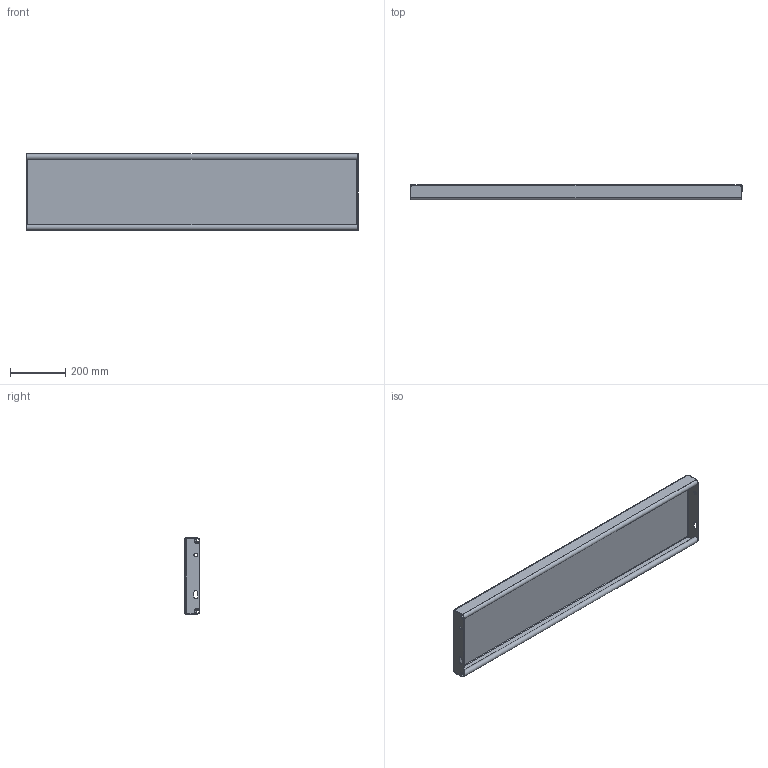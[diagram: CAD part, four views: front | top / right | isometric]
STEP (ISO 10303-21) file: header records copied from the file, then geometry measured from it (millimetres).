
FILE_DESCRIPTION (( 'STEP AP214' ), '1' );
FILE_NAME ('OPTIMO-Tread-Achil-O2-1200x275x57x2-st240-F100470100_plain.STEP', '2021-03-17T14:06:01', ( '' ), ( '' ), 'SwSTEP 2.0', 'SolidWorks 2021', '' );
FILE_SCHEMA (( 'AUTOMOTIVE_DESIGN' ));
Length unit declared in the file: millimetre
Products named in the file (1): OPTIMO-Tread-Achil-O2-1200x275x57x2-st240-F100470100_plain
Bounding box: 1200 x 57 x 275 mm (x, y, z)
Volume: 2052982.2 mm3; surface area: 1156033.3 mm2
Topology: 1 solids, 1 shells, 248 faces, 640 edges, 412 vertices
Faces by surface type: plane 173, bspline 39, cylinder 36
Entity records: 9924 total; most frequent: CARTESIAN_POINT 4092, ORIENTED_EDGE 1280, DIRECTION 1022, EDGE_CURVE 640, LINE 490, VECTOR 490, VERTEX_POINT 412, EDGE_LOOP 274
